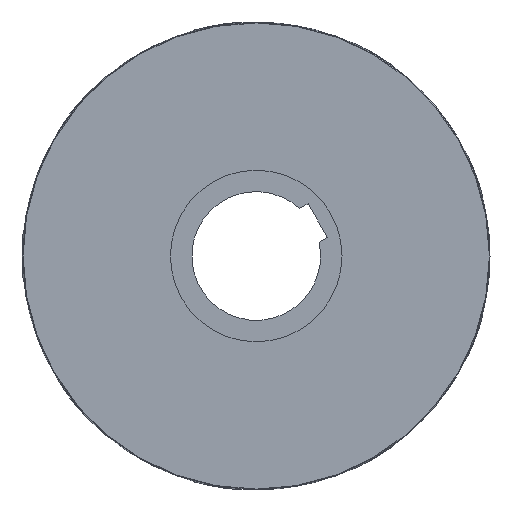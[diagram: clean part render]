
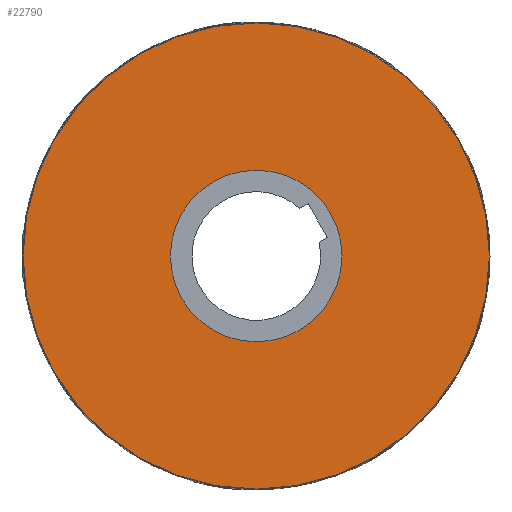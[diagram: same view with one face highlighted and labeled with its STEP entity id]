
A CAD part, left-side view. The second image highlights one B-rep face of the part: STEP entity #22790.
In plain terms, the highlighted planar face has unit normal (-1, 0, 0).
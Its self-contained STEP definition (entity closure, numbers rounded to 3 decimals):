
#3812=FACE_BOUND('',#8064,.T.);
#4856=PLANE('',#25611);
#6113=FACE_OUTER_BOUND('',#8063,.T.);
#8063=EDGE_LOOP('',(#20014));
#8064=EDGE_LOOP('',(#20015));
#9442=CIRCLE('',#25591,108.7);
#9461=CIRCLE('',#25612,40.);
#11484=VERTEX_POINT('',#52196);
#11521=VERTEX_POINT('',#52272);
#14326=EDGE_CURVE('',#11484,#11484,#9442,.T.);
#14363=EDGE_CURVE('',#11521,#11521,#9461,.T.);
#20014=ORIENTED_EDGE('',*,*,#14326,.F.);
#20015=ORIENTED_EDGE('',*,*,#14363,.F.);
#22790=ADVANCED_FACE('',(#6113,#3812),#4856,.T.);
#25591=AXIS2_PLACEMENT_3D('',#52197,#32262,#32263);
#25611=AXIS2_PLACEMENT_3D('',#52271,#32320,#32321);
#25612=AXIS2_PLACEMENT_3D('',#52273,#32322,#32323);
#32262=DIRECTION('center_axis',(1.,0.,0.));
#32263=DIRECTION('ref_axis',(0.,-0.174,0.985));
#32320=DIRECTION('center_axis',(-1.,0.,0.));
#32321=DIRECTION('ref_axis',(0.,0.985,0.174));
#32322=DIRECTION('center_axis',(-1.,0.,0.));
#32323=DIRECTION('ref_axis',(0.,0.174,-0.985));
#52196=CARTESIAN_POINT('',(-141.,18.876,-107.049));
#52197=CARTESIAN_POINT('Origin',(-141.,0.,0.));
#52271=CARTESIAN_POINT('Origin',(-141.,12.937,-73.368));
#52272=CARTESIAN_POINT('',(-141.,6.946,-39.392));
#52273=CARTESIAN_POINT('Origin',(-141.,0.,0.));
